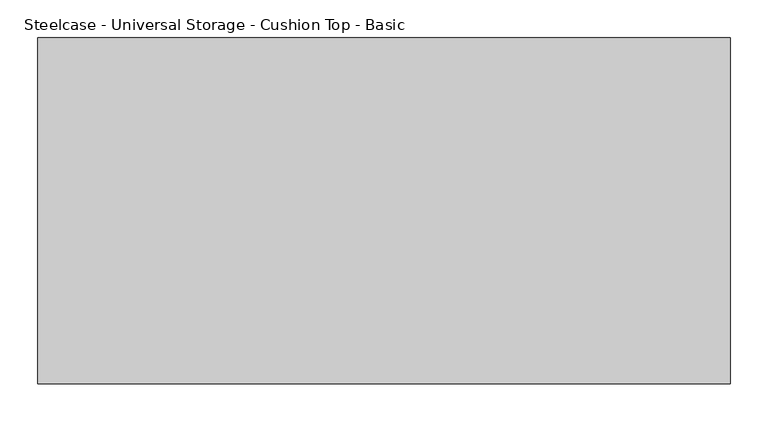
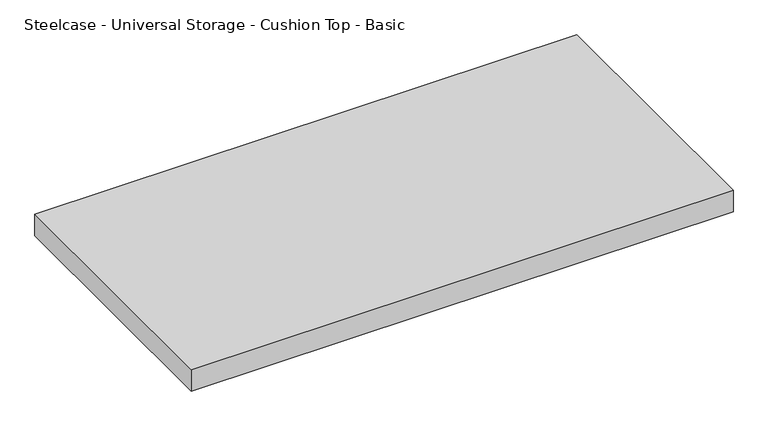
"""IFC4 building model written with IfcOpenShell, lengths in millimetres: furniture geometry, Steelcase - Universal Storage - Cushion Top - Basic : Lateral File - 18D x 36W."""

from ifc_helpers import new_model, si_unit, frame, origin, place, context, project, spatial, polyline, outline, extrude, source, transform, mapped, element, save


def steelcase_universal_storage_cushion_top_basic_ea08d49a(model_context):
    return source(origin(), model_context, "Body", "SweptSolid", [
        extrude(outline(polyline([(914.4, 0.0), (914.4, -457.2), (0.0, -457.2), (0.0, 0.0), (914.4, 0.0)])), frame((0.0, 0.0, 533.4), z_axis=(0.0, 0.0, 1.0), x_axis=(1.0, 0.0, 0.0)), (0.0, 0.0, 1.0), 38.0999971),
    ])


if __name__ == "__main__":
    model = new_model("IFC4")
    model_context = context("Model", 3, world=origin())
    ifc_project = project(units=[si_unit("LENGTHUNIT", "METRE", prefix="MILLI")], contexts=[model_context])
    site = spatial("IfcSite", under=ifc_project)
    building = spatial("IfcBuilding", under=site)
    placement = place(None, origin())
    steelcase_universal_storage_cushion_top_basic_shape = steelcase_universal_storage_cushion_top_basic_ea08d49a(model_context)
    element("IfcFurniture", 1, ObjectType="Steelcase - Universal Storage - Cushion Top - Basic : Lateral File - 18D x 36W", at=placement, inside=building, context=model_context, shape_type="MappedRepresentation", body=[
        mapped(steelcase_universal_storage_cushion_top_basic_shape, transform((0.0, 0.0, 0.0), x_axis=(1.0, 0.0, 0.0), y_axis=(0.0, 1.0, 0.0), z_axis=(0.0, 0.0, 1.0))),
    ])
    save(model, "model.ifc")
